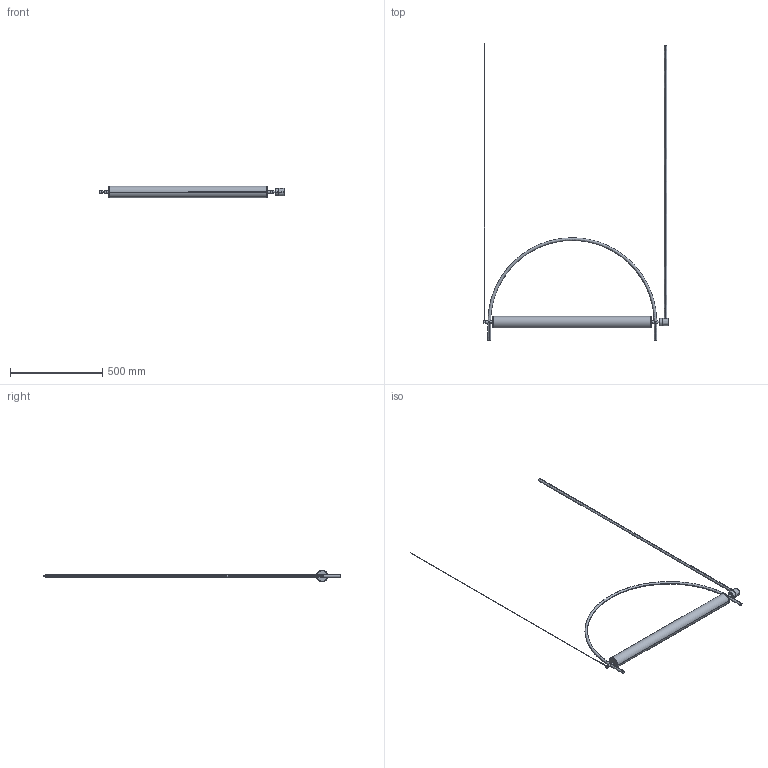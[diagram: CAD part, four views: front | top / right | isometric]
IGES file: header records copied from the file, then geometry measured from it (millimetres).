
Start section: SolidWorks IGES file using analytic representation for surfaces
Global section: file name: C:\Users\Agus\Desktop\aro\C1292.IGS; native system: SolidWorks 2018; preprocessor: SolidWorks 2018; author: Agus; date: 210629.191725; units: millimetre
Bounding box: 1000 x 1610 x 62 mm (x, y, z)
Surface area: 499547.1 mm2 (no closed solid volume)
Topology: 0 solids, 0 shells, 75 faces, 2284 edges, 2284 vertices
Faces by surface type: revolution 44, bspline 31
